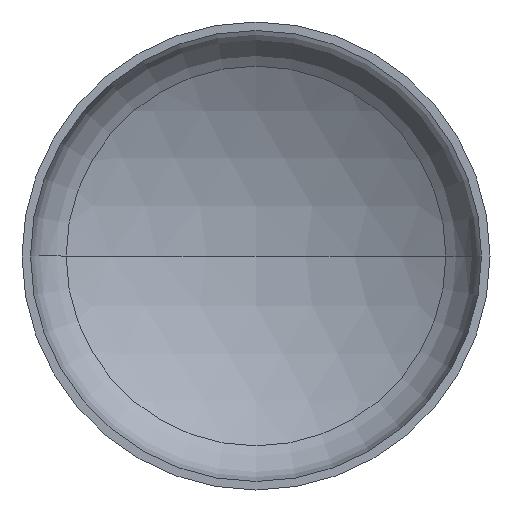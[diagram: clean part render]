
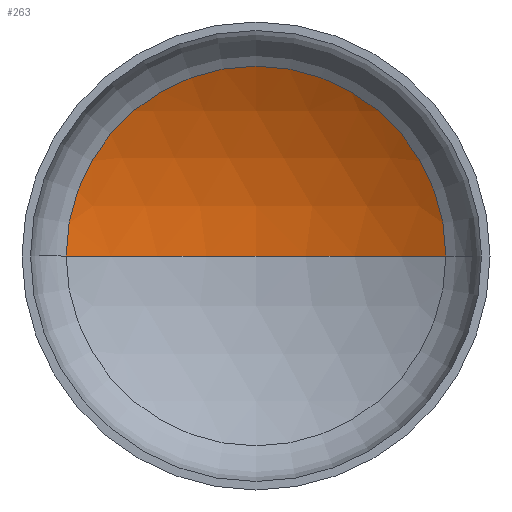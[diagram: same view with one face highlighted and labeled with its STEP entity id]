
A CAD part, front view. The second image highlights one B-rep face of the part: STEP entity #263.
In plain terms, the highlighted spherical face has radius 2720 mm.
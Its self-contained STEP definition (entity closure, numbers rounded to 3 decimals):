
#8 = AXIS2_PLACEMENT_3D ( 'NONE', #63, #188, #400 ) ;
#16 = VERTEX_POINT ( 'NONE', #283 ) ;
#30 = CIRCLE ( 'NONE', #38, 1379.207 ) ;
#31 = AXIS2_PLACEMENT_3D ( 'NONE', #285, #120, #201 ) ;
#36 = AXIS2_PLACEMENT_3D ( 'NONE', #260, #259, #280 ) ;
#37 = EDGE_LOOP ( 'NONE', ( #392, #104, #154 ) ) ;
#38 = AXIS2_PLACEMENT_3D ( 'NONE', #208, #209, #194 ) ;
#55 = VERTEX_POINT ( 'NONE', #355 ) ;
#57 = VERTEX_POINT ( 'NONE', #262 ) ;
#63 = CARTESIAN_POINT ( 'NONE',  ( 0., -1771.892, 0. ) ) ;
#90 = EDGE_CURVE ( 'NONE', #57, #16, #30, .T. ) ;
#104 = ORIENTED_EDGE ( 'NONE', *, *, #135, .T. ) ;
#120 = DIRECTION ( 'NONE',  ( 0., 0., -1. ) ) ;
#135 = EDGE_CURVE ( 'NONE', #55, #57, #245, .T. ) ;
#154 = ORIENTED_EDGE ( 'NONE', *, *, #90, .T. ) ;
#159 = SPHERICAL_SURFACE ( 'NONE', #8, 2720. ) ;
#160 = EDGE_CURVE ( 'NONE', #55, #16, #180, .T. ) ;
#180 = CIRCLE ( 'NONE', #36, 2720. ) ;
#188 = DIRECTION ( 'NONE',  ( 0., 0., -1. ) ) ;
#194 = DIRECTION ( 'NONE',  ( 1., 0., 0. ) ) ;
#201 = DIRECTION ( 'NONE',  ( -1., 0., 0. ) ) ;
#208 = CARTESIAN_POINT ( 'NONE',  ( 0., 572.503, 0. ) ) ;
#209 = DIRECTION ( 'NONE',  ( 0., -1., 0. ) ) ;
#245 = CIRCLE ( 'NONE', #31, 2720. ) ;
#259 = DIRECTION ( 'NONE',  ( 0., 0., 1. ) ) ;
#260 = CARTESIAN_POINT ( 'NONE',  ( 0., -1771.892, 0. ) ) ;
#262 = CARTESIAN_POINT ( 'NONE',  ( 1379.207, 572.503, 0. ) ) ;
#263 = ADVANCED_FACE ( 'NONE', ( #350 ), #159, .F. ) ;
#280 = DIRECTION ( 'NONE',  ( 1., 0., 0. ) ) ;
#283 = CARTESIAN_POINT ( 'NONE',  ( -1379.207, 572.503, 0. ) ) ;
#285 = CARTESIAN_POINT ( 'NONE',  ( 0., -1771.892, 0. ) ) ;
#350 = FACE_OUTER_BOUND ( 'NONE', #37, .T. ) ;
#355 = CARTESIAN_POINT ( 'NONE',  ( 0., 948.108, 0. ) ) ;
#392 = ORIENTED_EDGE ( 'NONE', *, *, #160, .F. ) ;
#400 = DIRECTION ( 'NONE',  ( -1., 0., 0. ) ) ;
